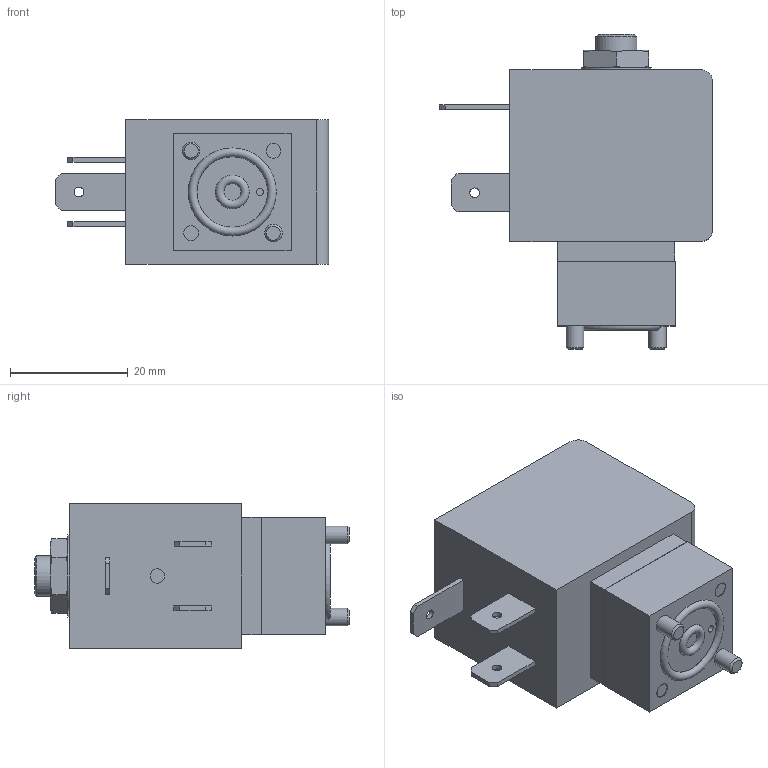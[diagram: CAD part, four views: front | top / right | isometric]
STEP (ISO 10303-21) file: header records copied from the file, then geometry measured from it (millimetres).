
FILE_DESCRIPTION(/* description */ ('STEP AP214'),/* implementation_level */ '2;1');
FILE_NAME(/* name */ '7012-00393085Hubankerventil_3_2_Wege_direktwirkend',/* time_stamp */ '2025-05-18T14:20:10+02:00',/* author */ ('License CC BY-ND 4.0'),/* organization */ ('CADENAS'),/* preprocessor_version */ 'ST-DEVELOPER v19.3',/* originating_system */ 'PARTsolutions',/* authorisation */ ' ');
FILE_SCHEMA (('AUTOMOTIVE_DESIGN {1 0 10303 214 3 1 1}'));
Length unit declared in the file: millimetre
Products named in the file (1): 7012-00393085Hubankerventil 3/2 Wege direktwirkend
Bounding box: 46.5 x 53.6 x 24.6 mm (x, y, z)
Volume: 31177.5 mm3; surface area: 7201.8 mm2
Topology: 1 solids, 1 shells, 114 faces, 268 edges, 176 vertices
Faces by surface type: plane 78, cylinder 19, cone 15, torus 2
Full cylindrical faces by diameter (mm): 1.2 x1, 1.65 x3, 2.45 x1, 2.5 x2, 3 x2, 5.78 x1, 7 x1, 9 x1, 12 x1
Entity records: 3951 total; most frequent: CARTESIAN_POINT 599, DIRECTION 506, ORIENTED_EDGE 486, EDGE_CURVE 243, AXIS2_PLACEMENT_3D 172, VERTEX_POINT 169, LINE 162, VECTOR 162
